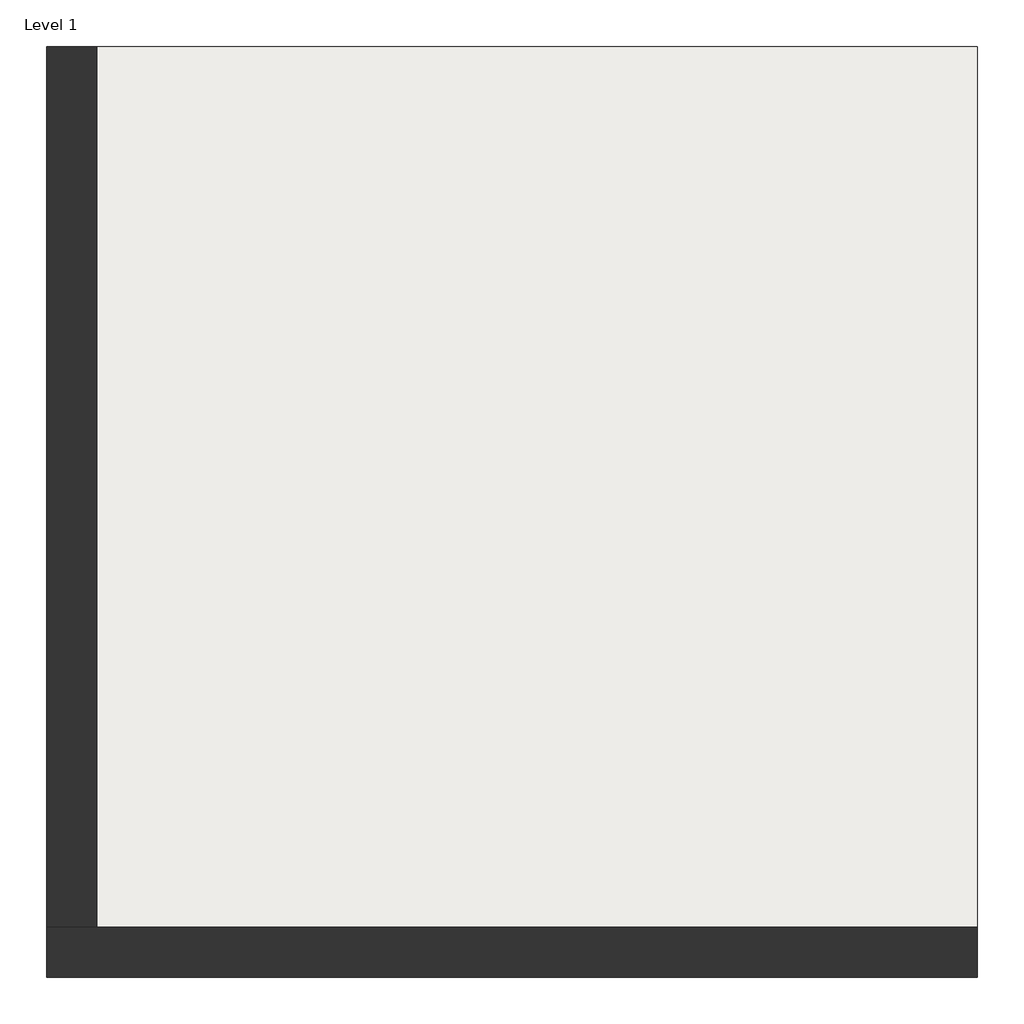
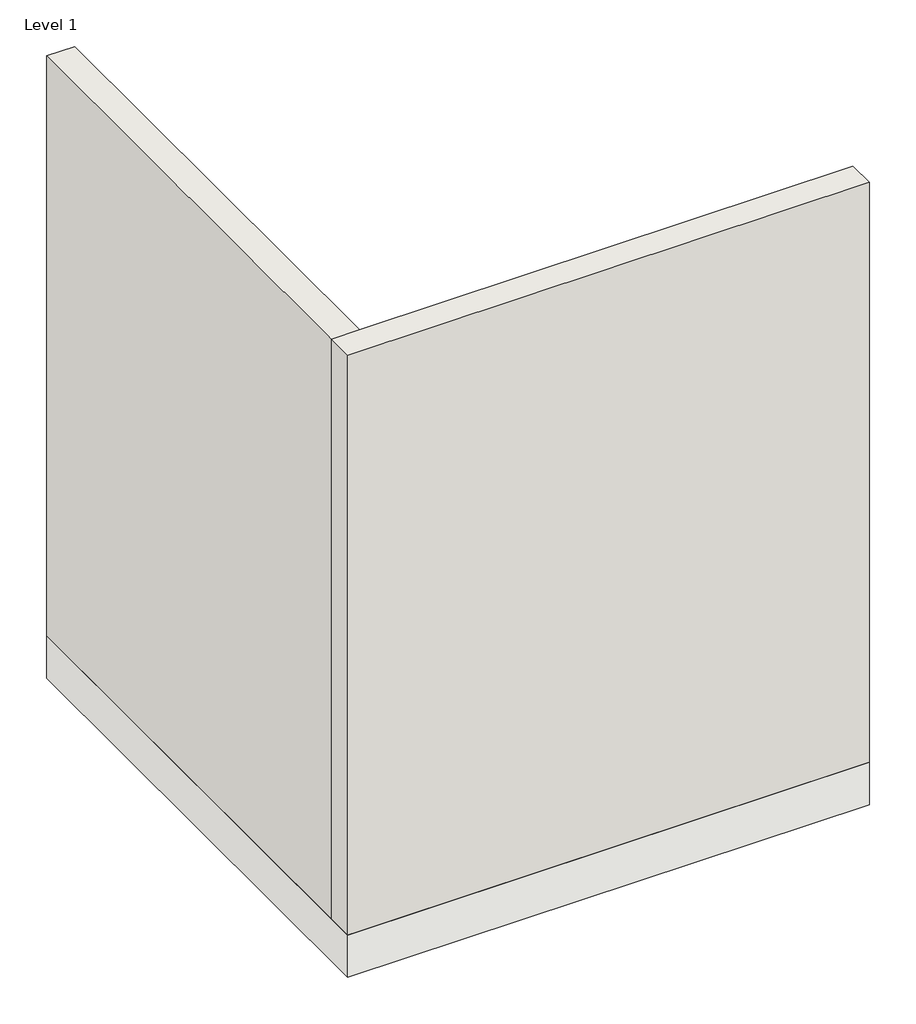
# One storey, incomplete: 2 walls, 1 slab.
"""IFC4 building model written with IfcOpenShell, lengths in millimetres."""

from ifc_helpers import new_model, si_unit, frame, origin, origin_with_axes, place, context, project, spatial, polyline, outline, extrude, faceted_brep, element, save

model = new_model("IFC4")

# Units and contexts
model_context = context("Model", 3, world=origin())
ifc_project = project(units=[si_unit("LENGTHUNIT", "METRE", prefix="MILLI")], contexts=[model_context])

# Site, building, storey
site = spatial("IfcSite", under=ifc_project)
building = spatial("IfcBuilding", under=site)
storey = spatial("IfcBuildingStorey", under=building, Name="Level 1", Elevation=0.0)

# Slab
placement = place(None, origin())
element("IfcSlab", 1, ObjectType="Floor 150mm", at=placement, inside=storey, context=model_context, shape_type="SweptSolid", body=[
    extrude(outline(polyline([(3378.1077425, -464.506656), (3378.1077425, -2789.506656), (1053.1077425, -2789.506656), (1053.1077425, -464.506656), (3378.1077425, -464.506656)])), frame((0.0, 0.0, -200.0), z_axis=(0.0, 0.0, 1.0), x_axis=(1.0, 0.0, 0.0)), (0.0, 0.0, 1.0), 200.0),
])

# Walls
element("IfcWall", 2, ObjectType="Wall 125mm", at=placement, inside=storey, context=model_context, shape_type="Brep", body=[
    faceted_brep([(1053.1077425, -2789.506656, 0.0), (3378.1077425, -2789.506656, 0.0), (3378.1077425, -2789.506656, 2732.0), (1053.1077425, -2789.506656, 2732.0), (1053.1077425, -2664.506656, 0.0), (1053.1077425, -2664.506656, 2732.0), (1178.1077425, -2664.506656, 2732.0), (3378.1077425, -2664.506656, 2732.0), (3378.1077425, -2664.506656, 0.0), (1178.1077425, -2664.506656, 0.0)], [[[0, 1, 2, 3]], [[4, 5, 6, 7, 8, 9]], [[1, 0, 4, 9, 8]], [[2, 1, 8, 7]], [[3, 2, 7, 6, 5]], [[0, 3, 5, 4]]]),
])
element("IfcWall", 3, ObjectType="Wall 125mm", at=placement, inside=storey, context=model_context, shape_type="SweptSolid", body=[
    extrude(outline(polyline([(1178.1077425, -464.506656), (1178.1077425, -2664.506656), (1053.1077425, -2664.506656), (1053.1077425, -464.506656), (1178.1077425, -464.506656)])), origin_with_axes(), (0.0, 0.0, 1.0), 2732.0),
])

save(model, "model.ifc")
